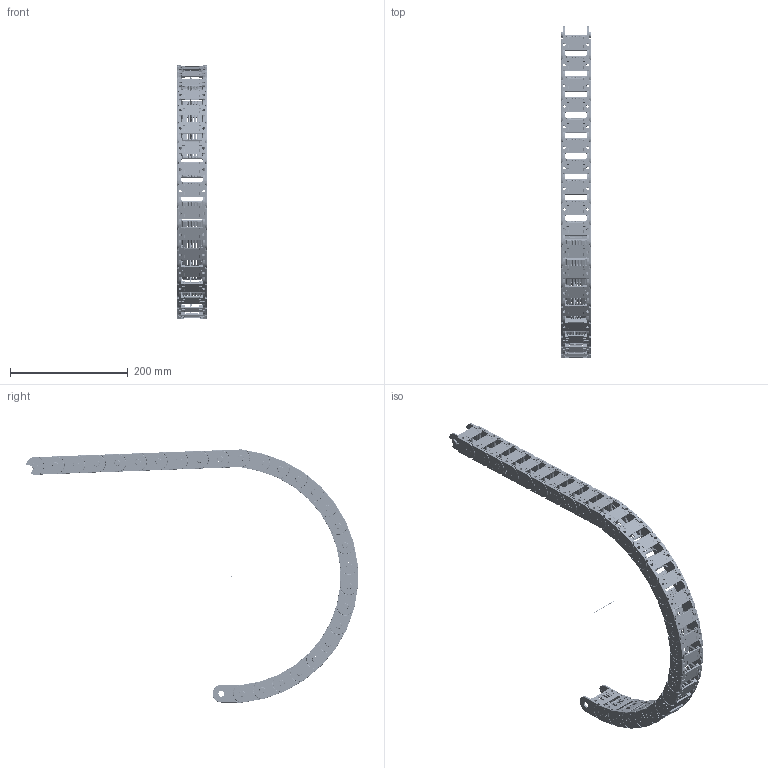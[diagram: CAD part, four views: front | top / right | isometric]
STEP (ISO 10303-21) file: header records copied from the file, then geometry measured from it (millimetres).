
FILE_DESCRIPTION((''),'2;1');
FILE_NAME('C:\Uebbing\PARAMETERKETTEN\KOLIBRI\Kol_30_050_1\KOLIBRI 30_050_1_R200.stp','2012-03-05T08:18:12',('Uebbing'),(''),'Autodesk Inventor 10','Autodesk Inventor 10','');
FILE_SCHEMA(('AUTOMOTIVE_DESIGN { 1 0 10303 214 1 1 1 1 }'));
Length unit declared in the file: millimetre
Products named in the file (6): KOLIBRI 30_050_1_PARAMETRISCH; Achse; Kol_30_050_1; PZ 30 Stecksteg; Kol 30_050_1 Lasche; Kol 30_050_0 Klappsteg
Assembly tree (32 placements, depth 3):
  KOLIBRI 30_050_1_PARAMETRISCH
    Achse
    Kol_30_050_1  x28
      PZ 30 Stecksteg
      Kol 30_050_1 Lasche
      Kol 30_050_0 Klappsteg
Bounding box: 50 x 563.62 x 429.99 mm (x, y, z)
Volume: 413912 mm3; surface area: 419490.1 mm2
Topology: 85 solids, 85 shells, 26743 faces, 73084 edges, 47883 vertices
Faces by surface type: plane 13470, bspline 6440, cylinder 5293, torus 1204, cone 224, sphere 112
Full cylindrical faces by diameter (mm): 1 x1, 1.166 x28, 2.048 x28, 2.8 x224, 5.1 x56, 10 x28, 10.1 x56
Entity records: 33218 total; most frequent: CARTESIAN_POINT 9837, ORIENTED_EDGE 5142, DIRECTION 4226, EDGE_CURVE 2571, VERTEX_POINT 1699, VECTOR 1612, LINE 1612, AXIS2_PLACEMENT_3D 1307
